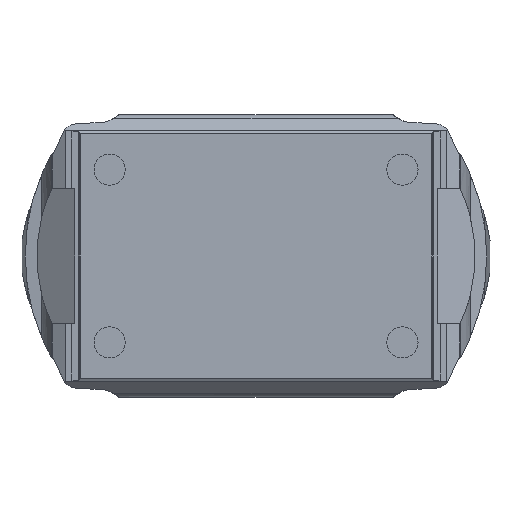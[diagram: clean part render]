
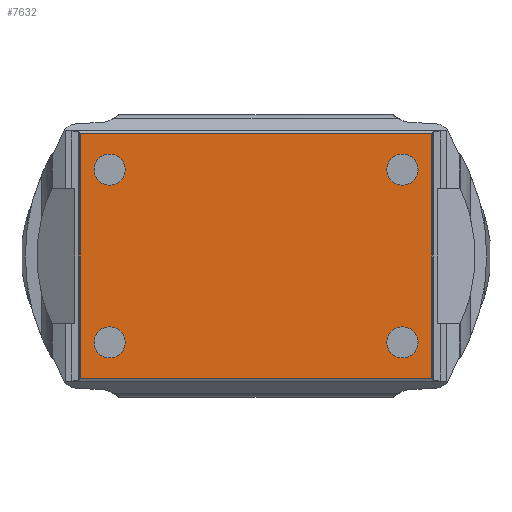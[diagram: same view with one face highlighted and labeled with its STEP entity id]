
A CAD part, front view. The second image highlights one B-rep face of the part: STEP entity #7632.
In plain terms, the highlighted planar face has unit normal (0, -1, 0).
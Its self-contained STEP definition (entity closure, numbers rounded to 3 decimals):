
#374=PLANE('',#8126);
#711=LINE('',#17105,#1062);
#712=LINE('',#17115,#1063);
#713=LINE('',#17117,#1064);
#714=LINE('',#17119,#1065);
#1062=VECTOR('',#9361,1000.);
#1063=VECTOR('',#9372,1000.);
#1064=VECTOR('',#9373,1000.);
#1065=VECTOR('',#9374,1000.);
#1151=CIRCLE('',#8127,13.);
#1152=CIRCLE('',#8128,13.);
#1153=CIRCLE('',#8129,13.);
#1154=CIRCLE('',#8130,13.);
#3269=ORIENTED_EDGE('',*,*,#4720,.F.);
#3270=ORIENTED_EDGE('',*,*,#4721,.F.);
#3271=ORIENTED_EDGE('',*,*,#4722,.F.);
#3272=ORIENTED_EDGE('',*,*,#4723,.T.);
#3273=ORIENTED_EDGE('',*,*,#4724,.T.);
#3274=ORIENTED_EDGE('',*,*,#4719,.F.);
#3275=ORIENTED_EDGE('',*,*,#4725,.F.);
#3276=ORIENTED_EDGE('',*,*,#4726,.T.);
#4719=EDGE_CURVE('',#5575,#5572,#711,.T.);
#4720=EDGE_CURVE('',#5576,#5576,#1151,.T.);
#4721=EDGE_CURVE('',#5577,#5577,#1152,.T.);
#4722=EDGE_CURVE('',#5578,#5578,#1153,.T.);
#4723=EDGE_CURVE('',#5579,#5579,#1154,.T.);
#4724=EDGE_CURVE('',#5580,#5572,#712,.T.);
#4725=EDGE_CURVE('',#5581,#5575,#713,.T.);
#4726=EDGE_CURVE('',#5581,#5580,#714,.T.);
#5572=VERTEX_POINT('',#17099);
#5575=VERTEX_POINT('',#17104);
#5576=VERTEX_POINT('',#17108);
#5577=VERTEX_POINT('',#17110);
#5578=VERTEX_POINT('',#17112);
#5579=VERTEX_POINT('',#17114);
#5580=VERTEX_POINT('',#17116);
#5581=VERTEX_POINT('',#17118);
#6690=EDGE_LOOP('',(#3269));
#6691=EDGE_LOOP('',(#3270));
#6692=EDGE_LOOP('',(#3271));
#6693=EDGE_LOOP('',(#3272));
#6694=EDGE_LOOP('',(#3273,#3274,#3275,#3276));
#7169=FACE_BOUND('',#6690,.T.);
#7170=FACE_BOUND('',#6691,.T.);
#7171=FACE_BOUND('',#6692,.T.);
#7172=FACE_BOUND('',#6693,.T.);
#7173=FACE_BOUND('',#6694,.T.);
#7632=ADVANCED_FACE('',(#7169,#7170,#7171,#7172,#7173),#374,.T.);
#8126=AXIS2_PLACEMENT_3D('',#17106,#9362,#9363);
#8127=AXIS2_PLACEMENT_3D('',#17107,#9364,#9365);
#8128=AXIS2_PLACEMENT_3D('',#17109,#9366,#9367);
#8129=AXIS2_PLACEMENT_3D('',#17111,#9368,#9369);
#8130=AXIS2_PLACEMENT_3D('',#17113,#9370,#9371);
#9361=DIRECTION('',(0.,0.,-1.));
#9362=DIRECTION('',(0.,-1.,0.));
#9363=DIRECTION('',(1.,0.,0.));
#9364=DIRECTION('',(0.,-1.,0.));
#9365=DIRECTION('',(1.,0.,0.));
#9366=DIRECTION('',(0.,-1.,0.));
#9367=DIRECTION('',(1.,0.,0.));
#9368=DIRECTION('',(0.,-1.,0.));
#9369=DIRECTION('',(1.,0.,0.));
#9370=DIRECTION('',(0.,1.,0.));
#9371=DIRECTION('',(1.,0.,0.));
#9372=DIRECTION('',(1.,0.,0.));
#9373=DIRECTION('',(1.,0.,0.));
#9374=DIRECTION('',(0.,0.,-1.));
#17099=CARTESIAN_POINT('',(146.576,-120.,-102.076));
#17104=CARTESIAN_POINT('',(146.576,-120.,102.076));
#17105=CARTESIAN_POINT('',(146.576,-120.,516.624));
#17106=CARTESIAN_POINT('',(146.576,-120.,516.624));
#17107=CARTESIAN_POINT('',(122.,-120.,-72.));
#17108=CARTESIAN_POINT('',(135.,-120.,-72.));
#17109=CARTESIAN_POINT('',(-122.,-120.,72.));
#17110=CARTESIAN_POINT('',(-109.,-120.,72.));
#17111=CARTESIAN_POINT('',(122.,-120.,72.));
#17112=CARTESIAN_POINT('',(135.,-120.,72.));
#17113=CARTESIAN_POINT('',(-122.,-120.,-72.));
#17114=CARTESIAN_POINT('',(-109.,-120.,-72.));
#17115=CARTESIAN_POINT('',(-479.885,-120.,-102.076));
#17116=CARTESIAN_POINT('',(-146.576,-120.,-102.076));
#17117=CARTESIAN_POINT('',(-498.612,-120.,102.076));
#17118=CARTESIAN_POINT('',(-146.576,-120.,102.076));
#17119=CARTESIAN_POINT('',(-146.576,-120.,516.624));
